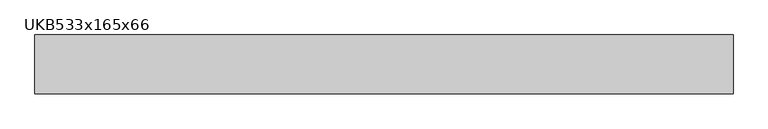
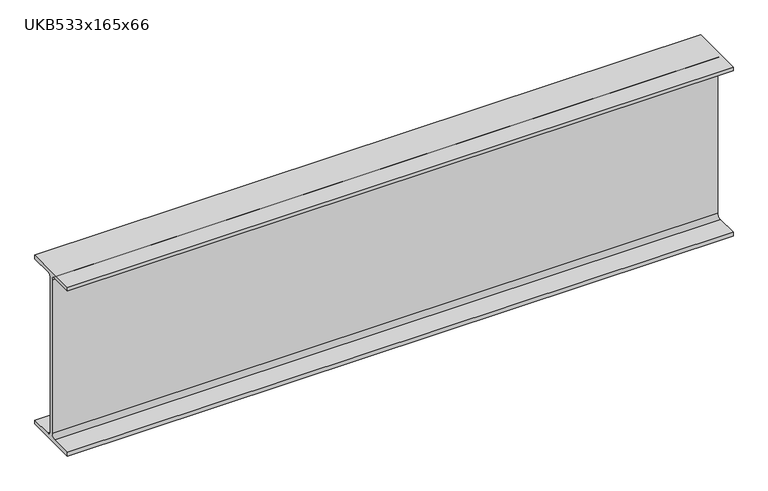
"""IFC4 building model written with IfcOpenShell, lengths in millimetres: beam geometry, UKB-UK Beams : UKB533x165x66."""

from ifc_helpers import new_model, si_unit, point, frame, frame_2d, origin, place, context, project, spatial, polyline, circle_curve, trimmed, segment, composite_curve, outline, extrude, source, transform, mapped, element, save


def ukb533x165x66_27a6d2b0(model_context):
    return source(origin(), model_context, "Body", "SweptSolid", [
        extrude(outline(composite_curve([segment(polyline([(82.55, -250.95), (82.55, -262.35), (-82.55, -262.35), (-82.55, -250.95), (-17.15, -250.95)]), True, "CONTINUOUS"), segment(trimmed(circle_curve(frame_2d((-17.15, -238.25)), 12.7), [point((-17.15, -250.95))], [point((-4.45, -238.25))], True, "CARTESIAN"), True, "CONTINUOUS"), segment(polyline([(-4.45, -238.25), (-4.45, 238.25)]), True, "CONTINUOUS"), segment(trimmed(circle_curve(frame_2d((-17.15, 238.25)), 12.7), [point((-4.45, 238.25))], [point((-17.15, 250.95))], True, "CARTESIAN"), True, "CONTINUOUS"), segment(polyline([(-17.15, 250.95), (-82.55, 250.95), (-82.55, 262.35), (82.55, 262.35), (82.55, 250.95), (17.15, 250.95)]), True, "CONTINUOUS"), segment(trimmed(circle_curve(frame_2d((17.15, 238.25)), 12.7), [point((17.15, 250.95))], [point((4.45, 238.25))], True, "CARTESIAN"), True, "CONTINUOUS"), segment(polyline([(4.45, 238.25), (4.45, -238.25)]), True, "CONTINUOUS"), segment(trimmed(circle_curve(frame_2d((17.15, -238.25)), 12.7), [point((4.45, -238.25))], [point((17.15, -250.95))], True, "CARTESIAN"), True, "CONTINUOUS"), segment(polyline([(17.15, -250.95), (82.55, -250.95)]), True, "CONTINUOUS")], self_intersect=False)), frame((-978.0, 0.0, 0.0), z_axis=(1.0, 0.0, 0.0), x_axis=(0.0, 1.0, 0.0)), (0.0, 0.0, 1.0), 1956.0),
    ])


if __name__ == "__main__":
    model = new_model("IFC4")
    model_context = context("Model", 3, world=origin())
    ifc_project = project(units=[si_unit("LENGTHUNIT", "METRE", prefix="MILLI")], contexts=[model_context])
    site = spatial("IfcSite", under=ifc_project)
    building = spatial("IfcBuilding", under=site)
    placement = place(None, origin())
    ukb533x165x66_shape = ukb533x165x66_27a6d2b0(model_context)
    element("IfcBeam", 1, ObjectType="UKB-UK Beams : UKB533x165x66", at=placement, inside=building, context=model_context, shape_type="MappedRepresentation", body=[
        mapped(ukb533x165x66_shape, transform((0.0, 0.0, 0.0), x_axis=(1.0, 0.0, 0.0), y_axis=(0.0, 1.0, 0.0), z_axis=(0.0, 0.0, 1.0))),
    ])
    save(model, "model.ifc")
